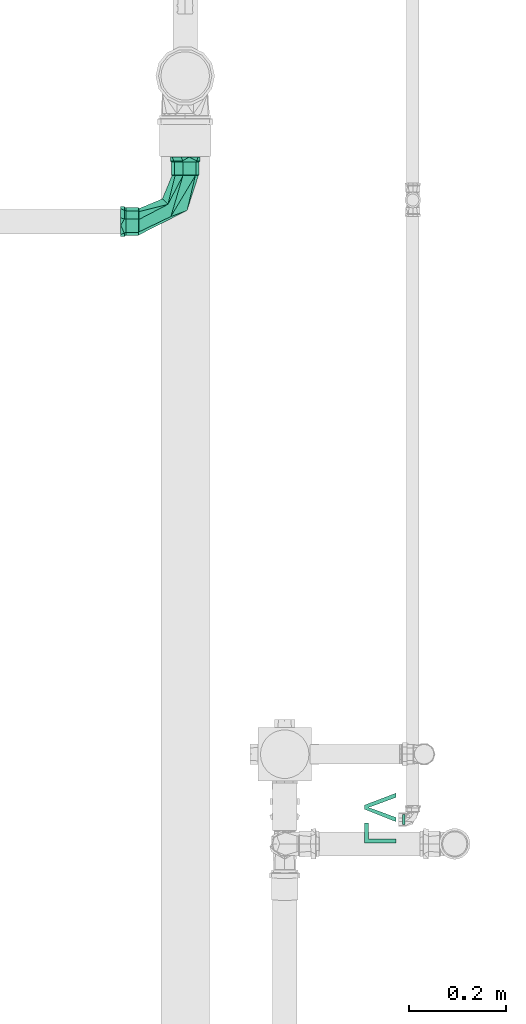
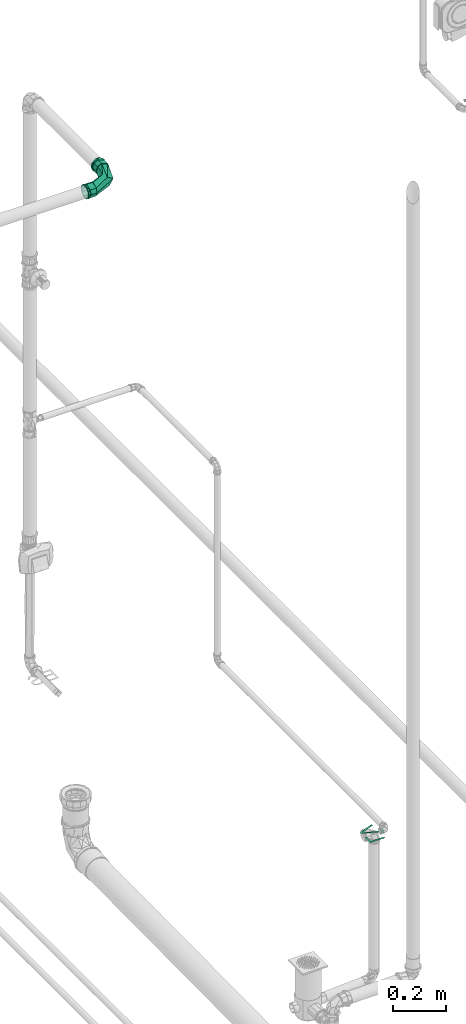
# One storey, part 138 of 589: 1 flow fitting, 1 flow terminal.
"""IFC2X3 building model written with IfcOpenShell, lengths in millimetres."""

from ifc_helpers import new_model, entity, si_unit, converted_unit, derived_unit, direction, frame, origin, place, context, subcontext, project, spatial, face_set, faceted_brep, surface_model, source, transform, mapped, material, type_object, type_shapes, element, save


model = new_model("IFC2X3")

# Units and contexts
model_context = context("Model", 3, precision=0.01, world=origin(), true_north=direction((6.123031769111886e-17, 1.0)))
body_context = subcontext(model_context, "Body", "Model", "MODEL_VIEW")
ifc_project = project(units=[si_unit("LENGTHUNIT", "METRE", prefix="MILLI"), si_unit("AREAUNIT", "SQUARE_METRE"), si_unit("VOLUMEUNIT", "CUBIC_METRE"), converted_unit("PLANEANGLEUNIT", "DEGREE", entity("IfcRatioMeasure", 0.017453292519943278), si_unit("PLANEANGLEUNIT", "RADIAN"), dimensions=[0, 0, 0, 0, 0, 0, 0]), si_unit("MASSUNIT", "GRAM", prefix="KILO"), derived_unit("MASSDENSITYUNIT", [(si_unit("MASSUNIT", "GRAM", prefix="KILO"), 1), (si_unit("LENGTHUNIT", "METRE"), -3)]), derived_unit("IONCONCENTRATIONUNIT", [(si_unit("MASSUNIT", "GRAM", prefix="KILO"), 1), (si_unit("LENGTHUNIT", "METRE"), -3)]), derived_unit("MOMENTOFINERTIAUNIT", [(si_unit("LENGTHUNIT", "METRE"), 4)]), si_unit("TIMEUNIT", "SECOND"), si_unit("FREQUENCYUNIT", "HERTZ"), si_unit("THERMODYNAMICTEMPERATUREUNIT", "DEGREE_CELSIUS"), derived_unit("THERMALTRANSMITTANCEUNIT", [(si_unit("MASSUNIT", "GRAM", prefix="KILO"), 1), (si_unit("THERMODYNAMICTEMPERATUREUNIT", "KELVIN"), -1), (si_unit("TIMEUNIT", "SECOND"), -3)]), derived_unit("THERMALCONDUCTANCEUNIT", [(si_unit("MASSUNIT", "GRAM", prefix="KILO"), 1), (si_unit("THERMODYNAMICTEMPERATUREUNIT", "KELVIN"), -1), (si_unit("TIMEUNIT", "SECOND"), -3), (si_unit("LENGTHUNIT", "METRE"), 1)]), derived_unit("VOLUMETRICFLOWRATEUNIT", [(si_unit("LENGTHUNIT", "METRE"), 3), (si_unit("TIMEUNIT", "SECOND"), -1)]), derived_unit("MASSFLOWRATEUNIT", [(si_unit("MASSUNIT", "GRAM", prefix="KILO"), 1), (si_unit("TIMEUNIT", "SECOND"), -1)]), derived_unit("ROTATIONALFREQUENCYUNIT", [(si_unit("TIMEUNIT", "SECOND"), -1)]), si_unit("ELECTRICCURRENTUNIT", "AMPERE"), si_unit("ELECTRICVOLTAGEUNIT", "VOLT"), si_unit("POWERUNIT", "WATT"), si_unit("FORCEUNIT", "NEWTON", prefix="KILO"), si_unit("ILLUMINANCEUNIT", "LUX"), si_unit("LUMINOUSFLUXUNIT", "LUMEN"), si_unit("LUMINOUSINTENSITYUNIT", "CANDELA"), derived_unit("USERDEFINED", [(si_unit("MASSUNIT", "GRAM", prefix="KILO"), -1), (si_unit("LENGTHUNIT", "METRE"), -2), (si_unit("TIMEUNIT", "SECOND"), 3), (si_unit("LUMINOUSFLUXUNIT", "LUMEN"), 1)]), derived_unit("USERDEFINED", [(si_unit("MASSUNIT", "GRAM", prefix="KILO"), 1), (si_unit("TIMEUNIT", "SECOND"), -3), (si_unit("LENGTHUNIT", "METRE"), 3), (si_unit("ELECTRICCURRENTUNIT", "AMPERE"), -2)]), derived_unit("SOUNDPOWERUNIT", [(si_unit("MASSUNIT", "GRAM", prefix="KILO"), 1), (si_unit("TIMEUNIT", "SECOND"), -3), (si_unit("LENGTHUNIT", "METRE"), 2)]), derived_unit("SOUNDPRESSUREUNIT", [(si_unit("MASSUNIT", "GRAM", prefix="KILO"), 1), (si_unit("LENGTHUNIT", "METRE"), -1), (si_unit("TIMEUNIT", "SECOND"), -2)]), derived_unit("LINEARVELOCITYUNIT", [(si_unit("LENGTHUNIT", "METRE"), 1), (si_unit("TIMEUNIT", "SECOND"), -1)]), si_unit("PRESSUREUNIT", "PASCAL"), derived_unit("USERDEFINED", [(si_unit("MASSUNIT", "GRAM", prefix="KILO"), 1), (si_unit("LENGTHUNIT", "METRE"), -2), (si_unit("TIMEUNIT", "SECOND"), -2)]), derived_unit("LINEARFORCEUNIT", [(si_unit("MASSUNIT", "GRAM", prefix="KILO"), 1), (si_unit("TIMEUNIT", "SECOND"), -2)]), derived_unit("PLANARFORCEUNIT", [(si_unit("MASSUNIT", "GRAM", prefix="KILO"), 1), (si_unit("LENGTHUNIT", "METRE"), -1), (si_unit("TIMEUNIT", "SECOND"), -2)]), derived_unit("SPECIFICHEATCAPACITYUNIT", [(si_unit("THERMODYNAMICTEMPERATUREUNIT", "KELVIN"), -1), (si_unit("LENGTHUNIT", "METRE"), 2), (si_unit("TIMEUNIT", "SECOND"), -2)]), derived_unit("HEATINGVALUEUNIT", [(si_unit("LENGTHUNIT", "METRE"), 2), (si_unit("TIMEUNIT", "SECOND"), -2)]), derived_unit("VAPORPERMEABILITYUNIT", [(si_unit("LENGTHUNIT", "METRE"), -1), (si_unit("TIMEUNIT", "SECOND"), 1)]), derived_unit("DYNAMICVISCOSITYUNIT", [(si_unit("MASSUNIT", "GRAM", prefix="KILO"), 1), (si_unit("TIMEUNIT", "SECOND"), -1), (si_unit("LENGTHUNIT", "METRE"), -1)]), derived_unit("THERMALEXPANSIONCOEFFICIENTUNIT", [(si_unit("THERMODYNAMICTEMPERATUREUNIT", "KELVIN"), -1)]), derived_unit("MODULUSOFELASTICITYUNIT", [(si_unit("MASSUNIT", "GRAM", prefix="KILO"), 1), (si_unit("LENGTHUNIT", "METRE"), -1), (si_unit("TIMEUNIT", "SECOND"), -2)]), derived_unit("ISOTHERMALMOISTURECAPACITYUNIT", [(si_unit("LENGTHUNIT", "METRE"), 3), (si_unit("MASSUNIT", "GRAM", prefix="KILO"), -1)]), derived_unit("MOISTUREDIFFUSIVITYUNIT", [(si_unit("TIMEUNIT", "SECOND"), -1), (si_unit("LENGTHUNIT", "METRE"), 2)])], contexts=[model_context])

# Site, building, storey
site_placement = place(None, origin())
site = spatial("IfcSite", under=ifc_project, at=site_placement, Name="Default", CompositionType="ELEMENT")
building_placement = place(site_placement, origin())
building = spatial("IfcBuilding", under=site, at=building_placement, CompositionType="ELEMENT")
storey_placement = place(building_placement, frame((0.0, 0.0, 100.0)))
storey = spatial("IfcBuildingStorey", under=building, at=storey_placement, Name="TÉRREO", CompositionType="ELEMENT", Elevation=100.0)

# Flow terminal
ifc_material_1 = material(Name="<Unnamed>")
distribution_element_type = type_object("IfcDistributionElementType", Name="Hidráulica_Ponto de Utilização_Uso Provável_Rodrigo MEP:Lavatório LV (Peso 0,3) 60cm do Piso", material=ifc_material_1)
shared_shape_1 = source(origin(), body_context, "Body", "SurfaceModel", [
    surface_model("IfcFaceBasedSurfaceModel", [(0.0, 83.06704158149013, 11.595272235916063), (0.0, 17.77043998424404, 11.595272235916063), (8.162075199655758, 17.77043998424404, 11.595272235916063), (8.162075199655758, 74.90496638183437, 11.595272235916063), (40.81037599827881, 74.90496638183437, 11.595272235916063), (40.81037599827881, 83.06704158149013, 11.595272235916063), (69.281989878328, 83.06704158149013, 11.595272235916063), (43.29725828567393, 17.77043998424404, 11.595272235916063), (52.03322939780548, 17.77043998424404, 11.595272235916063), (69.42546385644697, 64.81396325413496, 11.595272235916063), (72.94854709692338, 75.41509608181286, 11.595272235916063), (76.4238056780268, 64.81396325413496, 11.595272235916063), (93.86386479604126, 17.77043998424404, 11.595272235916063), (102.59983590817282, 17.77043998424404, 11.595272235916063), (77.71507148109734, 83.06704158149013, 11.595272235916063), (37.95219179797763, 5.0, 11.595272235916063), (38.292933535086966, 5.0, 14.18346268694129), (39.291937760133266, 5.0, 16.595272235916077), (40.88112398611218, 5.0, 18.666340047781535), (42.95219179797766, 5.0, 20.255526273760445), (45.36400134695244, 5.0, 21.254530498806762), (47.952191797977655, 5.0, 21.59527223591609), (50.54038224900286, 5.0, 21.254530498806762), (52.95219179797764, 5.0, 20.255526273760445), (55.023259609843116, 5.0, 18.666340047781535), (56.61244583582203, 5.0, 16.595272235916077), (57.61145006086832, 5.0, 14.18346268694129), (57.95219179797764, 5.0, 11.595272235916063), (57.6114500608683, 5.0, 9.007081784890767), (56.612445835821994, 5.0, 6.595272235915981), (55.02325960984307, 5.0, 4.524204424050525), (52.95219179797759, 5.0, 2.9350181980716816), (50.540382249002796, 5.0, 1.936013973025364), (47.95219179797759, 5.0, 1.5952722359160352), (45.36400134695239, 5.0, 1.936013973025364), (42.952191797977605, 5.0, 2.9350181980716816), (40.88112398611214, 5.0, 4.524204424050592), (39.29193776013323, 5.0, 6.595272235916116), (38.292933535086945, 5.0, 9.007081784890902), (37.95219179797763, 0.0, 11.595272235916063), (38.292933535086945, 0.0, 9.007081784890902), (39.29193776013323, 0.0, 6.595272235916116), (40.88112398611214, 0.0, 4.524204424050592), (42.952191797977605, 0.0, 2.9350181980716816), (45.36400134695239, 0.0, 1.936013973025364), (47.95219179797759, 0.0, 1.5952722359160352), (50.540382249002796, 0.0, 1.936013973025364), (52.95219179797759, 0.0, 2.9350181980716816), (55.02325960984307, 0.0, 4.524204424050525), (56.612445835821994, 0.0, 6.595272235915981), (57.6114500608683, 0.0, 9.007081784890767), (57.95219179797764, 0.0, 11.595272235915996), (57.61145006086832, 0.0, 14.18346268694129), (56.61244583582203, 0.0, 16.595272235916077), (55.023259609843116, 0.0, 18.666340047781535), (52.95219179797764, 0.0, 20.255526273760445), (50.54038224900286, 0.0, 21.254530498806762), (47.952191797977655, 0.0, 21.59527223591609), (45.36400134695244, 0.0, 21.254530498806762), (42.95219179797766, 0.0, 20.255526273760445), (40.88112398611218, 0.0, 18.666340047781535), (39.291937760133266, 0.0, 16.595272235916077), (38.292933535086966, 0.0, 14.18346268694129)], [face_set([[[0, 1, 2, 3, 4, 5]], [[6, 7, 8, 9, 10, 11, 12, 13, 14]]]), face_set([[[15, 16, 17, 18, 19, 20, 21, 22, 23, 24, 25, 26, 27, 28, 29, 30, 31, 32, 33, 34, 35, 36, 37, 38]], [[39, 40, 41, 42, 43, 44, 45, 46, 47, 48, 49, 50, 51, 52, 53, 54, 55, 56, 57, 58, 59, 60, 61, 62]], [[38, 40, 39, 15]], [[37, 41, 40, 38]], [[35, 43, 42, 36]], [[36, 42, 41, 37]], [[34, 44, 43, 35]], [[44, 34, 33, 45]], [[32, 46, 45, 33]], [[31, 47, 46, 32]], [[29, 49, 48, 30]], [[30, 48, 47, 31]], [[28, 50, 49, 29]], [[50, 28, 27, 51]], [[26, 52, 51, 27]], [[25, 53, 52, 26]], [[23, 55, 54, 24]], [[24, 54, 53, 25]], [[22, 56, 55, 23]], [[56, 22, 21, 57]], [[20, 58, 57, 21]], [[19, 59, 58, 20]], [[17, 61, 60, 18]], [[18, 60, 59, 19]], [[16, 62, 61, 17]], [[62, 16, 15, 39]]])]),
])
type_shapes(distribution_element_type, [shared_shape_1])
flow_terminal_placement = place(storey_placement, frame((9250.470885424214, -9891.873797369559, 588.4047277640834), z_axis=(0.0, 0.0, 1.0), x_axis=(0.0, 1.0, 0.0)))
element("IfcFlowTerminal", 1, at=flow_terminal_placement, inside=storey, type_object=distribution_element_type, material=ifc_material_1, Name="Hidráulica_Ponto de Utilização_Uso Provável_Rodrigo MEP:Lavatório LV (Peso 0,3) 60cm do Piso", ObjectType="Hidráulica_Ponto de Utilização_Uso Provável_Rodrigo MEP:Lavatório LV (Peso 0,3) 60cm do Piso", context=body_context, shape_type="MappedRepresentation", body=[
    mapped(shared_shape_1, transform((0.0, 0.0, 0.0), scale=1.0)),
])

# Flow fitting
ifc_material_2 = material(Name="PVC Marrom")
pipe_fitting_type = type_object("IfcPipeFittingType", Name="PVC Marrom Soldável_Curva 45°_90°_Rodrigo MEP:Curva", PredefinedType="NOTDEFINED", material=ifc_material_2)
shared_shape_2 = source(origin(), body_context, "Body", "Brep", [
    faceted_brep([(-132.83999999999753, -7.958685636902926, -29.702219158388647), (-132.83999999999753, -6.470476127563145, -24.148145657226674), (-132.83999999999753, 6.470476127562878, -24.14814565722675), (-132.83999999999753, -26.630281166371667, -15.374999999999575), (-132.83999999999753, 7.9586856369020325, -29.70221915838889), (-132.83999999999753, -21.650635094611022, -12.499999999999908), (-132.83999999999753, -25.0, 0.0), (-132.83999999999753, -30.749999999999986, 0.0), (-132.83999999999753, -21.65063509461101, 12.499999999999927), (-132.83999999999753, -26.630281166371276, 15.374999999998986), (-132.83999999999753, -6.470476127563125, 24.148145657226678), (-132.83999999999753, -7.95868563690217, 29.70221915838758), (-132.83999999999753, 6.4704761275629, 24.14814565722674), (-132.83999999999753, 7.958685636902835, 29.702219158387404), (-132.83999999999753, 21.650635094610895, 12.500000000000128), (-132.83999999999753, 26.63028116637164, 15.374999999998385), (-132.83999999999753, 30.750000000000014, 0.0), (-132.83999999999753, 25.0, 0.0), (-132.83999999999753, 26.630281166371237, -15.375000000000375), (-132.83999999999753, 21.65063509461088, -12.50000000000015), (-125.33999999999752, 30.75, 0.0), (-125.33999999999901, 23.555335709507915, 19.766351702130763), (-125.34, 5.338054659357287, 30.283125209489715), (-125.33999999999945, -23.557724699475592, 19.763504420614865), (-125.33999999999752, -30.749999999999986, 0.0), (-125.33999999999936, -9.109835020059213, 25.023314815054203), (-125.33999999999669, -23.557724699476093, -19.763504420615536), (-125.33999999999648, -5.341714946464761, -30.282479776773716), (-125.33999999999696, 23.5553357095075, -19.766351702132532), (-125.33999999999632, 9.106810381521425, -25.024415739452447), (-122.34, 4.971874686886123, 28.21529659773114), (-122.33999999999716, -28.649999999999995, 0.0), (-122.33999999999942, -21.950765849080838, 18.411582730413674), (-122.3399999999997, -8.48944558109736, 23.313439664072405), (-122.33999999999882, 21.946146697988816, 18.417088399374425), (-122.33999999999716, 28.650000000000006, 0.0), (-122.33999999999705, 21.94614669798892, -18.41708839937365), (-122.339999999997, 8.483597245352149, -23.315568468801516), (-122.33999999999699, -21.950765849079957, -18.41158273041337), (-122.33999999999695, -4.978952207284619, -28.214048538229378), (-96.43999999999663, 21.946146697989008, 18.417088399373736), (-96.43999999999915, 25.298073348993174, 9.208544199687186), (-96.43999999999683, 28.65000000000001, 0.0), (-96.43999999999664, 4.971874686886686, 28.215296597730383), (-96.43999999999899, 13.459010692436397, 23.31619249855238), (-96.43999999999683, -28.64999999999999, 0.0), (-96.43999999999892, -25.300382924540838, 9.20579136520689), (-96.43999999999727, -21.950765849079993, 18.41158273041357), (-96.43999999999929, -8.489445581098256, 23.313439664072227), (-96.43999999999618, -21.950765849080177, -18.41158273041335), (-96.43999999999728, -24.68425679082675, -10.899097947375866), (-96.4399999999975, -4.978952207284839, -28.214048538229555), (-96.43999999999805, -13.464859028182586, -23.31281563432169), (-96.4399999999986, 25.298073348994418, -9.20854419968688), (-96.43999999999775, 21.94614669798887, -18.417088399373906), (-96.43999999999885, 8.483597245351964, -23.315568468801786), (-94.73999999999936, -4.711567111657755, -26.73805593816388), (-94.73999999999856, -20.797133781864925, -17.452842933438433), (-94.73999999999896, -12.75435044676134, -22.095449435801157), (-94.73999999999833, 20.801511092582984, -17.44762551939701), (-94.73999999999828, 23.975755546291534, -8.723812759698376), (-94.73999999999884, 8.044971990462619, -22.092840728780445), (-94.73999999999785, -23.973566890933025, -8.726421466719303), (-94.73999999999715, -27.150000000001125, 0.0), (-94.73999999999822, 27.15000000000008, 0.0), (-94.74000000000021, -23.973566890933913, 8.726421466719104), (-94.73999999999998, -20.79713378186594, 17.452842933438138), (-94.73999999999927, -8.03942985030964, 22.09485807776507), (-94.73999999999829, 23.391887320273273, 10.32846456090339), (-94.73999999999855, 4.718274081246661, 26.73687322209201), (-94.73999999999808, 12.759892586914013, 22.092249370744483), (-94.73999999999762, 20.801511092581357, 17.447625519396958), (-35.61160046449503, 35.61160041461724, 24.7683710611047), (-29.53939436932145, 10.498954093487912, 24.458649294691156), (3.8710814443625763, 23.094855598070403, 0.0), (-4.718274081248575, 94.7400000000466, 26.73687322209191), (-12.759892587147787, 94.74000000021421, 22.092249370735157), (-20.801511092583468, 94.74000000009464, 17.44762551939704), (-46.94665265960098, 46.946652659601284, 0.0), (20.79713378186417, 94.74000000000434, 17.45284293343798), (8.039429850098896, 94.74000000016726, 22.094858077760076), (27.15000000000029, 94.73999999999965, 0.0), (23.390647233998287, 94.74000000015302, 10.327841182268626), (-23.97575554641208, 94.7400000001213, 8.723812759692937), (-27.149999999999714, 94.73999999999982, 0.0), (-42.899124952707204, 42.89912250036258, -16.674892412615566), (-33.88584732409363, 31.031415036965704, -26.326092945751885), (-20.801511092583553, 94.73999999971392, -17.447625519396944), (-8.044971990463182, 94.73999999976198, -22.092840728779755), (4.7115671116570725, 94.73999999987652, -26.73805593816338), (-16.179319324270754, 16.179319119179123, -21.66613007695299), (20.797133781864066, 94.7399999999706, -17.452842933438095), (12.754350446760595, 94.73999999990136, -22.09544943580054), (23.97356689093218, 94.73999999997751, -8.726421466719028), (-23.391887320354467, 94.73999999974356, -10.328464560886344), (21.946146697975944, 96.43999999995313, -18.41708839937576), (25.29807334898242, 96.43999999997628, -9.208544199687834), (28.6499999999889, 96.43999999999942, 0.0), (4.971874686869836, 96.43999999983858, -28.215296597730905), (13.459010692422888, 96.43999999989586, -23.316192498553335), (-21.950765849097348, 96.43999999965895, -18.411582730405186), (-8.489445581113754, 96.43999999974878, -23.313439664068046), (-28.650000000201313, 96.4399999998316, 0.0), (-25.30038292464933, 96.43999999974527, -9.205791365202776), (-21.950765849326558, 96.44000000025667, 18.411582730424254), (-25.300382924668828, 96.44000000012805, 9.205791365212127), (-4.978952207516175, 96.44000000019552, 28.214048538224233), (-13.464859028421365, 96.44000000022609, 23.312815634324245), (21.94614669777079, 96.44000000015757, 18.417088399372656), (8.483597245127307, 96.44000000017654, 23.315568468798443), (25.298073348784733, 96.44000000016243, 9.208544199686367), (28.649999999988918, 122.33999999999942, 0.0), (21.946146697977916, 122.34000000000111, 18.417088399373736), (8.48359724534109, 122.34000000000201, 23.31556846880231), (-4.978952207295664, 122.3400000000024, 28.214048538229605), (-21.950765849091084, 122.34000000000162, 18.41158273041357), (-28.650000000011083, 122.33999999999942, 0.0), (-21.950765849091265, 122.33999999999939, -18.41158273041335), (-8.489445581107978, 122.3399999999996, -23.313439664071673), (4.9718746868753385, 122.3399999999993, -28.215296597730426), (21.946146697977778, 122.33999999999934, -18.417088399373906), (-23.555335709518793, 125.34000000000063, 19.76635170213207), (-30.750000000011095, 125.33999999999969, 0.0), (-5.338054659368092, 125.34000000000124, 30.2831252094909), (23.55772469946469, 125.3400000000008, 19.76350442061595), (9.109835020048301, 125.34000000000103, 25.02331481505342), (30.749999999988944, 125.33999999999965, 0.0), (23.557724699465, 125.34000000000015, -19.763504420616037), (5.341714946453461, 125.34000000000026, -30.28247977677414), (-23.555335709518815, 125.33999999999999, -19.766351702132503), (-9.106810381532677, 125.34000000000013, -25.024415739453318), (-7.958685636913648, 132.8399999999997, -29.702219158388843), (-6.470476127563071, 132.8399999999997, -24.14814565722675), (6.470476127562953, 132.8399999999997, -24.148145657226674), (-26.630281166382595, 132.8399999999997, -15.374999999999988), (7.958685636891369, 132.8399999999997, -29.702219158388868), (-21.650635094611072, 132.8399999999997, -12.50000000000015), (-25.0, 132.8399999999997, 0.0), (-30.750000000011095, 132.8399999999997, 0.0), (-21.650635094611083, 132.8399999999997, 12.500000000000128), (-26.6302811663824, 132.8399999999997, 15.375000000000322), (-6.470476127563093, 132.8399999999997, 24.14814565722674), (-7.958685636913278, 132.8399999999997, 29.70221915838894), (6.470476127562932, 132.8399999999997, 24.148145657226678), (7.958685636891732, 132.8399999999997, 29.702219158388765), (21.650635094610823, 132.8399999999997, 12.499999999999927), (26.630281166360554, 132.8399999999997, 15.374999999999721), (30.749999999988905, 132.8399999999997, 0.0), (25.0, 132.8399999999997, 0.0), (26.63028116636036, 132.8399999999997, -15.37500000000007), (21.65063509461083, 132.8399999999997, -12.499999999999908), (-96.43999999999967, -21.650635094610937, -12.500000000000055), (-96.43999999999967, -25.0, 0.0), (-96.43999999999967, -21.650635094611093, 12.499999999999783), (-96.43999999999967, -6.470476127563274, 24.148145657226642), (-96.43999999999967, 6.470476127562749, 24.14814565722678), (-96.43999999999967, 21.650635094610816, 12.500000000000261), (-96.43999999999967, 25.0, 0.0), (-96.43999999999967, 21.650635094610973, -12.499999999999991), (-96.43999999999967, 6.4704761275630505, -24.1481456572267), (-96.43999999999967, -6.4704761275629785, -24.14814565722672), (6.470476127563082, 96.44000000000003, 24.148145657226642), (-6.470476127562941, 96.44000000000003, 24.14814565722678), (-6.470476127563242, 96.44000000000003, -24.1481456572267), (6.470476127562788, 96.44000000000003, -24.14814565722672), (-21.650635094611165, 96.44000000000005, -12.499999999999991), (-25.0, 96.44000000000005, 0.0), (-21.650635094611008, 96.44000000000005, 12.500000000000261), (21.650635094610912, 96.44000000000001, 12.499999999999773), (25.0, 96.44000000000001, 0.0), (21.650635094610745, 96.44000000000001, -12.500000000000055)], [[[0, 1, 2]], [[1, 0, 3]], [[2, 4, 0]], [[3, 5, 1]], [[3, 6, 5]], [[6, 3, 7]], [[8, 6, 7]], [[8, 7, 9]], [[9, 10, 8]], [[9, 11, 10]], [[10, 11, 12]], [[13, 12, 11]], [[13, 14, 12]], [[14, 13, 15]], [[16, 14, 15]], [[17, 14, 16]], [[18, 17, 16]], [[18, 19, 17]], [[19, 18, 4]], [[4, 2, 19]], [[16, 15, 20]], [[15, 21, 20]], [[21, 15, 13]], [[21, 13, 22]], [[23, 11, 9]], [[24, 9, 7]], [[11, 23, 25, 22]], [[23, 9, 24]], [[11, 22, 13]], [[7, 3, 24]], [[3, 26, 24]], [[26, 3, 0]], [[26, 0, 27]], [[28, 4, 18]], [[20, 18, 16]], [[4, 28, 29, 27]], [[28, 18, 20]], [[4, 27, 0]], [[25, 30, 22]], [[31, 32, 24]], [[24, 32, 23]], [[23, 33, 25]], [[34, 35, 21]], [[23, 32, 33]], [[21, 22, 34]], [[20, 21, 35]], [[30, 25, 33]], [[34, 22, 30]], [[35, 36, 28]], [[28, 20, 35]], [[36, 29, 28]], [[36, 37, 29]], [[37, 27, 29]], [[38, 31, 24]], [[38, 26, 39]], [[26, 38, 24]], [[27, 37, 39]], [[39, 26, 27]], [[35, 34, 40, 41, 42]], [[40, 34, 30, 43, 44]], [[32, 31, 45, 46, 47]], [[32, 47, 48, 43, 30, 33]], [[31, 38, 49, 50, 45]], [[49, 38, 39, 51, 52]], [[36, 35, 42, 53, 54]], [[36, 54, 55, 51, 39, 37]], [[55, 56, 51]], [[57, 52, 58]], [[59, 54, 53]], [[53, 60, 59]], [[42, 60, 53]], [[54, 61, 55]], [[62, 63, 45]], [[50, 57, 62]], [[54, 59, 61]], [[58, 52, 51]], [[57, 50, 49]], [[56, 55, 61]], [[45, 50, 62]], [[57, 49, 52]], [[51, 56, 58]], [[64, 60, 42]], [[63, 46, 45]], [[46, 63, 65]], [[65, 47, 46]], [[66, 48, 47]], [[66, 67, 48]], [[67, 43, 48]], [[40, 68, 41]], [[64, 42, 41]], [[69, 44, 43]], [[64, 41, 68]], [[43, 67, 69]], [[70, 40, 44]], [[68, 40, 71]], [[44, 69, 70]], [[70, 71, 40]], [[65, 66, 47]], [[72, 71, 70, 69]], [[69, 73, 72]], [[74, 73, 66]], [[72, 75, 76, 77]], [[78, 64, 68, 71]], [[78, 71, 72]], [[73, 69, 67, 66]], [[74, 66, 65, 63]], [[73, 79, 80, 75]], [[74, 81, 82, 79]], [[72, 73, 75]], [[78, 77, 83, 84]], [[77, 78, 72]], [[79, 73, 74]], [[64, 78, 85]], [[86, 87, 88, 89]], [[85, 86, 59]], [[90, 56, 86]], [[90, 57, 58, 56]], [[74, 63, 62, 57]], [[84, 85, 78]], [[74, 90, 91]], [[90, 89, 92, 91]], [[86, 89, 90]], [[74, 91, 93, 81]], [[57, 90, 74]], [[85, 59, 60, 64]], [[86, 56, 61, 59]], [[85, 84, 94, 87]], [[86, 85, 87]], [[81, 93, 91, 95, 96, 97]], [[98, 99, 95, 91, 92, 89]], [[100, 101, 98, 89, 88, 87]], [[100, 87, 94, 84, 102, 103]], [[84, 83, 77, 104, 105, 102]], [[106, 107, 104, 77, 76, 75]], [[108, 109, 106, 75, 80, 79]], [[108, 79, 82, 81, 97, 110]], [[111, 112, 108, 110, 97]], [[108, 112, 113, 114, 106, 109]], [[115, 116, 102, 105, 104]], [[115, 104, 107, 106, 114]], [[116, 117, 100, 103, 102]], [[100, 117, 118, 119, 98, 101]], [[120, 111, 97, 96, 95]], [[120, 95, 99, 98, 119]], [[115, 114, 121]], [[116, 115, 122]], [[122, 115, 121]], [[114, 123, 121]], [[112, 111, 124]], [[112, 124, 125]], [[113, 123, 114]], [[126, 124, 111]], [[123, 113, 125]], [[113, 112, 125]], [[111, 120, 127]], [[127, 126, 111]], [[128, 127, 120]], [[129, 130, 118]], [[120, 119, 128]], [[117, 116, 122]], [[129, 118, 117]], [[129, 117, 122]], [[119, 130, 128]], [[130, 119, 118]], [[131, 132, 133]], [[132, 131, 134]], [[133, 135, 131]], [[134, 136, 132]], [[134, 137, 136]], [[137, 134, 138]], [[139, 137, 138]], [[139, 138, 140]], [[140, 141, 139]], [[140, 142, 141]], [[141, 142, 143]], [[144, 143, 142]], [[144, 145, 143]], [[145, 144, 146]], [[147, 145, 146]], [[148, 145, 147]], [[149, 148, 147]], [[149, 150, 148]], [[150, 149, 135]], [[135, 133, 150]], [[147, 146, 126]], [[146, 124, 126]], [[124, 146, 144]], [[144, 123, 125, 124]], [[121, 142, 140]], [[122, 140, 138]], [[142, 121, 123]], [[121, 140, 122]], [[142, 123, 144]], [[138, 134, 122]], [[134, 129, 122]], [[129, 134, 131]], [[131, 128, 130, 129]], [[127, 135, 149]], [[126, 149, 147]], [[135, 127, 128]], [[127, 149, 126]], [[135, 128, 131]], [[151, 152, 153, 154, 155, 156, 157, 158, 159, 160]], [[153, 152, 6, 8]], [[154, 153, 8, 10]], [[10, 12, 155, 154]], [[161, 162, 141, 143]], [[156, 155, 12, 14]], [[157, 156, 14, 17]], [[158, 157, 17, 19]], [[159, 158, 19, 2]], [[2, 1, 160, 159]], [[163, 164, 133, 132]], [[151, 160, 1, 5]], [[152, 151, 5, 6]], [[163, 165, 166, 167, 162, 161, 168, 169, 170, 164]], [[145, 148, 169, 168]], [[143, 145, 168, 161]], [[139, 141, 162, 167]], [[137, 139, 167, 166]], [[136, 137, 166, 165]], [[132, 136, 165, 163]], [[150, 133, 164, 170]], [[148, 150, 170, 169]]]),
])
type_shapes(pipe_fitting_type, [shared_shape_2])
flow_fitting_placement = place(storey_placement, frame((8798.142188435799, -8612.531283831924, 2995.0)))
element("IfcFlowFitting", 2, at=flow_fitting_placement, inside=storey, type_object=pipe_fitting_type, material=ifc_material_2, Name="PVC Marrom Soldável_Curva 45°_90°_Rodrigo MEP:Curva", ObjectType="PVC Marrom Soldável_Curva 45°_90°_Rodrigo MEP:Curva", context=body_context, shape_type="MappedRepresentation", body=[
    mapped(shared_shape_2, transform((0.0, 0.0, 0.0), scale=1.0)),
])

save(model, "model.ifc")
